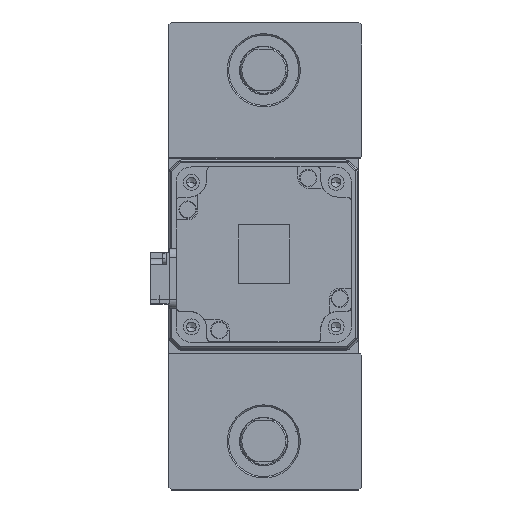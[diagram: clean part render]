
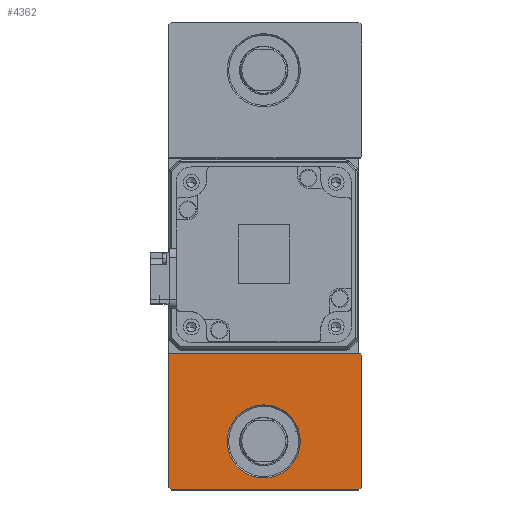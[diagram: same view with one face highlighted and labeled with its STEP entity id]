
A CAD part, top view. The second image highlights one B-rep face of the part: STEP entity #4362.
In plain terms, the highlighted planar face has unit normal (0, 0, 1).
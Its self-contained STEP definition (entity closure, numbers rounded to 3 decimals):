
#363 = CARTESIAN_POINT ( 'NONE',  ( 33.5, -79., 25. ) ) ;
#861 = DIRECTION ( 'NONE',  ( 0., 0., -1. ) ) ;
#1252 = AXIS2_PLACEMENT_3D ( 'NONE', #34652, #11120, #22939 ) ;
#2343 = ORIENTED_EDGE ( 'NONE', *, *, #23117, .T. ) ;
#2616 = VERTEX_POINT ( 'NONE', #18373 ) ;
#4269 = CARTESIAN_POINT ( 'NONE',  ( -32.5, -33.5, 25. ) ) ;
#4362 = ADVANCED_FACE ( 'NONE', ( #8175, #22888 ), #19968, .T. ) ;
#4498 = EDGE_CURVE ( 'NONE', #25158, #23382, #33927, .T. ) ;
#4776 = DIRECTION ( 'NONE',  ( 0., 1., 0. ) ) ;
#4794 = LINE ( 'NONE', #23202, #12652 ) ;
#5860 = LINE ( 'NONE', #4269, #28416 ) ;
#6426 = LINE ( 'NONE', #11767, #15205 ) ;
#6483 = EDGE_CURVE ( 'NONE', #2616, #9565, #17650, .T. ) ;
#7764 = CARTESIAN_POINT ( 'NONE',  ( 33.5, -33.5, 25. ) ) ;
#8175 = FACE_BOUND ( 'NONE', #15187, .T. ) ;
#8310 = AXIS2_PLACEMENT_3D ( 'NONE', #15430, #36010, #18374 ) ;
#8496 = ORIENTED_EDGE ( 'NONE', *, *, #15236, .T. ) ;
#9565 = VERTEX_POINT ( 'NONE', #32540 ) ;
#10184 = CARTESIAN_POINT ( 'NONE',  ( -0.25, -0.25, 25. ) ) ;
#10715 = ORIENTED_EDGE ( 'NONE', *, *, #10790, .T. ) ;
#10790 = EDGE_CURVE ( 'NONE', #27622, #2616, #11482, .T. ) ;
#11120 = DIRECTION ( 'NONE',  ( 0., 0., 1. ) ) ;
#11358 = VERTEX_POINT ( 'NONE', #31465 ) ;
#11442 = CARTESIAN_POINT ( 'NONE',  ( -32.5, -79., 25. ) ) ;
#11482 = LINE ( 'NONE', #7764, #18372 ) ;
#11767 = CARTESIAN_POINT ( 'NONE',  ( -55.75, -55.75, 25. ) ) ;
#11810 = EDGE_CURVE ( 'NONE', #9565, #25158, #5860, .T. ) ;
#12274 = CARTESIAN_POINT ( 'NONE',  ( 32.5, -80., 25. ) ) ;
#12652 = VECTOR ( 'NONE', #17302, 1000. ) ;
#13030 = DIRECTION ( 'NONE',  ( 1., 0., 0. ) ) ;
#13471 = CIRCLE ( 'NONE', #8310, 12.5 ) ;
#13815 = CARTESIAN_POINT ( 'NONE',  ( -31.5, -80., 25. ) ) ;
#13975 = EDGE_CURVE ( 'NONE', #17376, #11358, #25547, .T. ) ;
#14562 = ORIENTED_EDGE ( 'NONE', *, *, #27055, .T. ) ;
#15187 = EDGE_LOOP ( 'NONE', ( #24150, #14562 ) ) ;
#15205 = VECTOR ( 'NONE', #23580, 1000. ) ;
#15236 = EDGE_CURVE ( 'NONE', #15407, #27622, #4794, .T. ) ;
#15375 = CARTESIAN_POINT ( 'NONE',  ( 12.5, -63.5, 25. ) ) ;
#15407 = VERTEX_POINT ( 'NONE', #12274 ) ;
#15430 = CARTESIAN_POINT ( 'NONE',  ( 0., -63.5, 25. ) ) ;
#16736 = VECTOR ( 'NONE', #24857, 1000. ) ;
#17302 = DIRECTION ( 'NONE',  ( 0.707, 0.707, 0. ) ) ;
#17376 = VERTEX_POINT ( 'NONE', #15375 ) ;
#17416 = AXIS2_PLACEMENT_3D ( 'NONE', #18569, #861, #21530 ) ;
#17650 = LINE ( 'NONE', #10184, #16736 ) ;
#17664 = CARTESIAN_POINT ( 'NONE',  ( -32.5, -33.5, 25. ) ) ;
#18372 = VECTOR ( 'NONE', #4776, 1000. ) ;
#18373 = CARTESIAN_POINT ( 'NONE',  ( 33.5, -34., 25. ) ) ;
#18374 = DIRECTION ( 'NONE',  ( 1., 0., 0. ) ) ;
#18569 = CARTESIAN_POINT ( 'NONE',  ( 0., -63.5, 25. ) ) ;
#18958 = DIRECTION ( 'NONE',  ( -1., 0., 0. ) ) ;
#19968 = PLANE ( 'NONE',  #1252 ) ;
#19981 = ORIENTED_EDGE ( 'NONE', *, *, #4498, .T. ) ;
#20607 = VECTOR ( 'NONE', #13030, 1000. ) ;
#20621 = DIRECTION ( 'NONE',  ( 0., -1., 0. ) ) ;
#21253 = CARTESIAN_POINT ( 'NONE',  ( -32.5, -33.5, 25. ) ) ;
#21530 = DIRECTION ( 'NONE',  ( 1., 0., 0. ) ) ;
#22888 = FACE_OUTER_BOUND ( 'NONE', #23009, .T. ) ;
#22939 = DIRECTION ( 'NONE',  ( 1., 0., 0. ) ) ;
#23009 = EDGE_LOOP ( 'NONE', ( #2343, #8496, #10715, #30201, #27893, #19981, #25679 ) ) ;
#23117 = EDGE_CURVE ( 'NONE', #31011, #15407, #28428, .T. ) ;
#23202 = CARTESIAN_POINT ( 'NONE',  ( 56.25, -56.25, 25. ) ) ;
#23382 = VERTEX_POINT ( 'NONE', #11442 ) ;
#23580 = DIRECTION ( 'NONE',  ( 0.707, -0.707, 0. ) ) ;
#24150 = ORIENTED_EDGE ( 'NONE', *, *, #13975, .T. ) ;
#24697 = CARTESIAN_POINT ( 'NONE',  ( -32.5, -80., 25. ) ) ;
#24857 = DIRECTION ( 'NONE',  ( -0.707, 0.707, 0. ) ) ;
#25158 = VERTEX_POINT ( 'NONE', #21253 ) ;
#25547 = CIRCLE ( 'NONE', #17416, 12.5 ) ;
#25679 = ORIENTED_EDGE ( 'NONE', *, *, #34214, .T. ) ;
#26107 = VECTOR ( 'NONE', #20621, 1000. ) ;
#27055 = EDGE_CURVE ( 'NONE', #11358, #17376, #13471, .T. ) ;
#27622 = VERTEX_POINT ( 'NONE', #363 ) ;
#27893 = ORIENTED_EDGE ( 'NONE', *, *, #11810, .T. ) ;
#28416 = VECTOR ( 'NONE', #18958, 1000. ) ;
#28428 = LINE ( 'NONE', #24697, #20607 ) ;
#30201 = ORIENTED_EDGE ( 'NONE', *, *, #6483, .T. ) ;
#31011 = VERTEX_POINT ( 'NONE', #13815 ) ;
#31465 = CARTESIAN_POINT ( 'NONE',  ( -12.5, -63.5, 25. ) ) ;
#32540 = CARTESIAN_POINT ( 'NONE',  ( 33., -33.5, 25. ) ) ;
#33927 = LINE ( 'NONE', #17664, #26107 ) ;
#34214 = EDGE_CURVE ( 'NONE', #23382, #31011, #6426, .T. ) ;
#34652 = CARTESIAN_POINT ( 'NONE',  ( 0., 0., 25. ) ) ;
#36010 = DIRECTION ( 'NONE',  ( 0., 0., -1. ) ) ;
